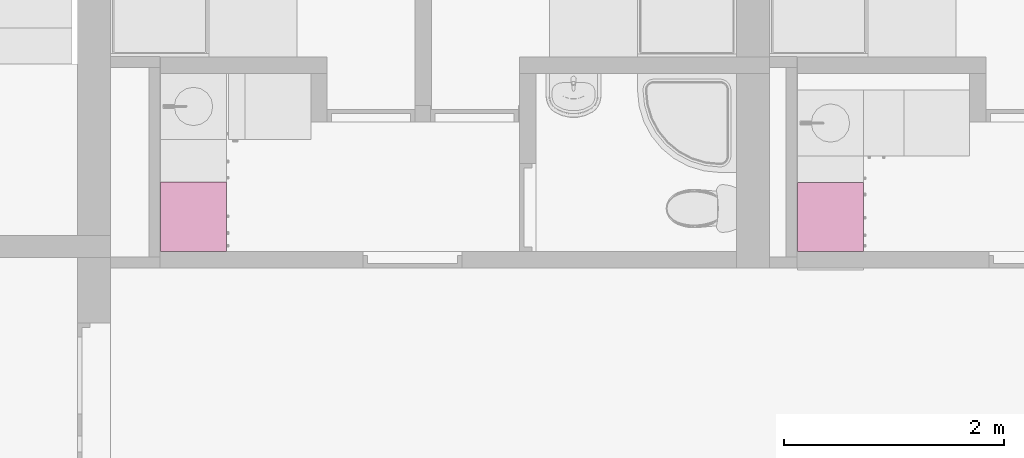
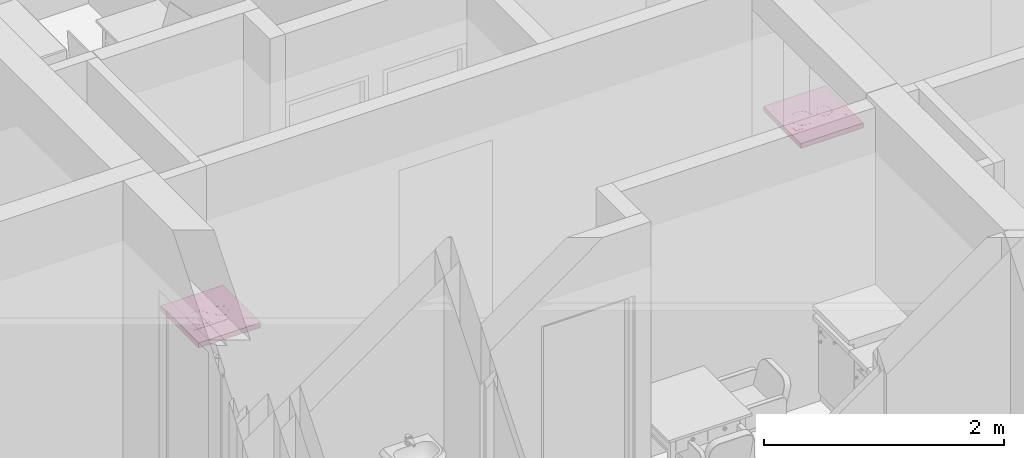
# One storey, part 161 of 165: 2 furnishings.
"""IFC2X3 building model written with IfcOpenShell, lengths in millimetres."""

from ifc_helpers import new_model, entity, si_unit, converted_unit, money_unit, direction, frame, origin_with_axes, place, context, subcontext, project, spatial, faceted_brep, source, transform, mapped, material, material_list, type_object, element, save


model = new_model("IFC2X3")

# Units and contexts
model_context = context("Model", 3, precision=1e-05, world=origin_with_axes(), true_north=direction((0.0, 1.0)))
body_context = subcontext(model_context, "Body", "Model", "MODEL_VIEW")
ifc_project = project(units=[si_unit("LENGTHUNIT", "METRE", prefix="MILLI"), si_unit("AREAUNIT", "SQUARE_METRE"), si_unit("VOLUMEUNIT", "CUBIC_METRE"), converted_unit("PLANEANGLEUNIT", "DEGREE", entity("IfcPlaneAngleMeasure", 0.0174532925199), si_unit("PLANEANGLEUNIT", "RADIAN"), dimensions=[0, 0, 0, 0, 0, 0, 0]), si_unit("SOLIDANGLEUNIT", "STERADIAN"), money_unit("USD"), converted_unit("TIMEUNIT", "Year", entity("IfcTimeMeasure", 31556926.0), si_unit("TIMEUNIT", "SECOND"), dimensions=[0, 0, 0, 0, 0, 0, 0]), si_unit("MASSUNIT", "GRAM"), si_unit("THERMODYNAMICTEMPERATUREUNIT", "DEGREE_CELSIUS"), si_unit("LUMINOUSINTENSITYUNIT", "LUMEN")], contexts=[model_context])

# Site, building, storey
site_placement = place(None, origin_with_axes())
site = spatial("IfcSite", under=ifc_project, at=site_placement, Name="Site", CompositionType="ELEMENT")
building_placement = place(site_placement, origin_with_axes())
building = spatial("IfcBuilding", under=site, at=building_placement, Name="Building", CompositionType="ELEMENT")
storey_placement = place(building_placement, frame((0.0, 0.0, 6300.0), z_axis=(0.0, 0.0, 1.0), x_axis=(1.0, 0.0, 0.0)))
storey = spatial("IfcBuildingStorey", under=building, at=storey_placement, Name="4KORRUS", CompositionType="ELEMENT", Elevation=6300.0)

# Furnishings
ifc_material = material(Name="Background")
ifc_material_list = material_list([ifc_material])
furnishing_element_type = type_object("IfcFurnishingElementType", Name="Built-in Cooktops 19")
shared_shape = source(origin_with_axes(), body_context, "Body", "Brep", [
    faceted_brep([(0.0, 0.0, 850.0), (0.0, 0.0, 900.0), (-629.977, 0.0, 900.0), (-629.977, 0.0, 850.0), (0.0, 600.0, 850.0), (0.0, 600.0, 900.0), (-629.977, 600.0, 900.0), (-629.977, 600.0, 850.0)], [[[0, 1, 2, 3]], [[4, 5, 1, 0]], [[1, 5, 6, 2]], [[3, 2, 6, 7]], [[0, 3, 7, 4]], [[7, 6, 5, 4]]]),
    faceted_brep([(-179.989, 55.0, 900.0), (-449.989, 55.0, 900.0), (-449.989, 545.0, 900.0), (-179.989, 545.0, 900.0), (-179.989, 55.0, 900.8), (-449.989, 55.0, 900.8), (-449.989, 545.0, 900.8), (-179.989, 545.0, 900.8), (-186.794, 61.806, 902.0), (-443.183, 61.806, 902.0), (-443.183, 538.194, 902.0), (-186.794, 538.194, 902.0)], [[[0, 1, 2, 3]], [[0, 4, 5, 1]], [[1, 5, 6, 2]], [[2, 6, 7, 3]], [[3, 7, 4, 0]], [[4, 8, 9, 5]], [[5, 9, 10, 6]], [[6, 10, 11, 7]], [[7, 11, 8, 4]], [[10, 9, 8, 11]]]),
    faceted_brep([(-209.989, 409.27, 902.0), (-209.989, 409.27, 903.0), (-224.056, 356.77, 903.0), (-224.056, 356.77, 902.0), (-224.056, 461.77, 902.0), (-224.056, 461.77, 903.0), (-262.489, 500.203, 903.0), (-314.989, 514.27, 903.0), (-367.489, 500.203, 903.0), (-405.921, 461.77, 903.0), (-419.989, 409.27, 903.0), (-405.921, 356.77, 903.0), (-367.489, 318.337, 903.0), (-314.989, 304.27, 903.0), (-262.489, 318.337, 903.0), (-214.989, 409.27, 903.0), (-228.386, 359.27, 903.0), (-264.989, 322.667, 903.0), (-314.989, 309.27, 903.0), (-364.989, 322.667, 903.0), (-401.591, 359.27, 903.0), (-414.989, 409.27, 903.0), (-401.591, 459.27, 903.0), (-364.989, 495.873, 903.0), (-314.989, 509.27, 903.0), (-264.989, 495.873, 903.0), (-228.386, 459.27, 903.0), (-262.489, 318.337, 902.0), (-314.989, 304.27, 902.0), (-367.489, 318.337, 902.0), (-405.921, 356.77, 902.0), (-419.989, 409.27, 902.0), (-405.921, 461.77, 902.0), (-367.489, 500.203, 902.0), (-314.989, 514.27, 902.0), (-262.489, 500.203, 902.0), (-214.989, 409.27, 902.0), (-228.386, 459.27, 902.0), (-264.989, 495.873, 902.0), (-314.989, 509.27, 902.0), (-364.989, 495.873, 902.0), (-401.591, 459.27, 902.0), (-414.989, 409.27, 902.0), (-401.591, 359.27, 902.0), (-364.989, 322.667, 902.0), (-314.989, 309.27, 902.0), (-264.989, 322.667, 902.0), (-228.386, 359.27, 902.0)], [[[0, 1, 2, 3]], [[4, 5, 1, 0]], [[1, 5, 6, 7, 8, 9, 10, 11, 12, 13, 14, 2], [15, 16, 17, 18, 19, 20, 21, 22, 23, 24, 25, 26]], [[3, 2, 14, 27]], [[0, 3, 27, 28, 29, 30, 31, 32, 33, 34, 35, 4], [36, 37, 38, 39, 40, 41, 42, 43, 44, 45, 46, 47]], [[35, 6, 5, 4]], [[34, 7, 6, 35]], [[33, 8, 7, 34]], [[32, 9, 8, 33]], [[31, 10, 9, 32]], [[30, 11, 10, 31]], [[29, 12, 11, 30]], [[28, 13, 12, 29]], [[27, 14, 13, 28]], [[47, 16, 15, 36]], [[46, 17, 16, 47]], [[45, 18, 17, 46]], [[44, 19, 18, 45]], [[43, 20, 19, 44]], [[42, 21, 20, 43]], [[41, 22, 21, 42]], [[40, 23, 22, 41]], [[39, 24, 23, 40]], [[38, 25, 24, 39]], [[37, 26, 25, 38]], [[36, 15, 26, 37]]]),
    faceted_brep([(-242.489, 200.53, 902.0), (-242.489, 200.53, 903.0), (-252.202, 164.28, 903.0), (-252.202, 164.28, 902.0), (-252.202, 236.78, 902.0), (-252.202, 236.78, 903.0), (-278.739, 263.317, 903.0), (-314.989, 273.03, 903.0), (-351.239, 263.317, 903.0), (-377.775, 236.78, 903.0), (-387.489, 200.53, 903.0), (-377.775, 164.28, 903.0), (-351.239, 137.743, 903.0), (-314.989, 128.03, 903.0), (-278.739, 137.743, 903.0), (-247.489, 200.53, 903.0), (-256.532, 166.78, 903.0), (-281.239, 142.073, 903.0), (-314.989, 133.03, 903.0), (-348.739, 142.073, 903.0), (-373.445, 166.78, 903.0), (-382.489, 200.53, 903.0), (-373.445, 234.28, 903.0), (-348.739, 258.987, 903.0), (-314.989, 268.03, 903.0), (-281.239, 258.987, 903.0), (-256.532, 234.28, 903.0), (-278.739, 137.743, 902.0), (-314.989, 128.03, 902.0), (-351.239, 137.743, 902.0), (-377.775, 164.28, 902.0), (-387.489, 200.53, 902.0), (-377.775, 236.78, 902.0), (-351.239, 263.317, 902.0), (-314.989, 273.03, 902.0), (-278.739, 263.317, 902.0), (-247.489, 200.53, 902.0), (-256.532, 234.28, 902.0), (-281.239, 258.987, 902.0), (-314.989, 268.03, 902.0), (-348.739, 258.987, 902.0), (-373.445, 234.28, 902.0), (-382.489, 200.53, 902.0), (-373.445, 166.78, 902.0), (-348.739, 142.073, 902.0), (-314.989, 133.03, 902.0), (-281.239, 142.073, 902.0), (-256.532, 166.78, 902.0)], [[[0, 1, 2, 3]], [[4, 5, 1, 0]], [[1, 5, 6, 7, 8, 9, 10, 11, 12, 13, 14, 2], [15, 16, 17, 18, 19, 20, 21, 22, 23, 24, 25, 26]], [[3, 2, 14, 27]], [[0, 3, 27, 28, 29, 30, 31, 32, 33, 34, 35, 4], [36, 37, 38, 39, 40, 41, 42, 43, 44, 45, 46, 47]], [[35, 6, 5, 4]], [[34, 7, 6, 35]], [[33, 8, 7, 34]], [[32, 9, 8, 33]], [[31, 10, 9, 32]], [[30, 11, 10, 31]], [[29, 12, 11, 30]], [[28, 13, 12, 29]], [[27, 14, 13, 28]], [[47, 16, 15, 36]], [[46, 17, 16, 47]], [[45, 18, 17, 46]], [[44, 19, 18, 45]], [[43, 20, 19, 44]], [[42, 21, 20, 43]], [[41, 22, 21, 42]], [[40, 23, 22, 41]], [[39, 24, 23, 40]], [[38, 25, 24, 39]], [[37, 26, 25, 38]], [[36, 15, 26, 37]]]),
])
for number, where, z_axis, x_axis, name in (
    (1, (866.697734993, -10356.6268789, 0.0), (0.0, 0.0, 1.0), (0.0, 1.0, 0.0), "FU - 007"),
    (2, (-4933.30226501, -10355.6268342, 0.0), (0.0, 0.0, 1.0), (0.0, 1.0, 0.0), "FU - 007"),
):
    element("IfcFurnishingElement", number, at=place(storey_placement, frame(where, z_axis=z_axis, x_axis=x_axis)), inside=storey, type_object=furnishing_element_type, material=ifc_material_list, Name=name, context=body_context, shape_type="MappedRepresentation", body=[
        mapped(shared_shape, transform((0.0, 0.0, 0.0))),
    ])

save(model, "model.ifc")
